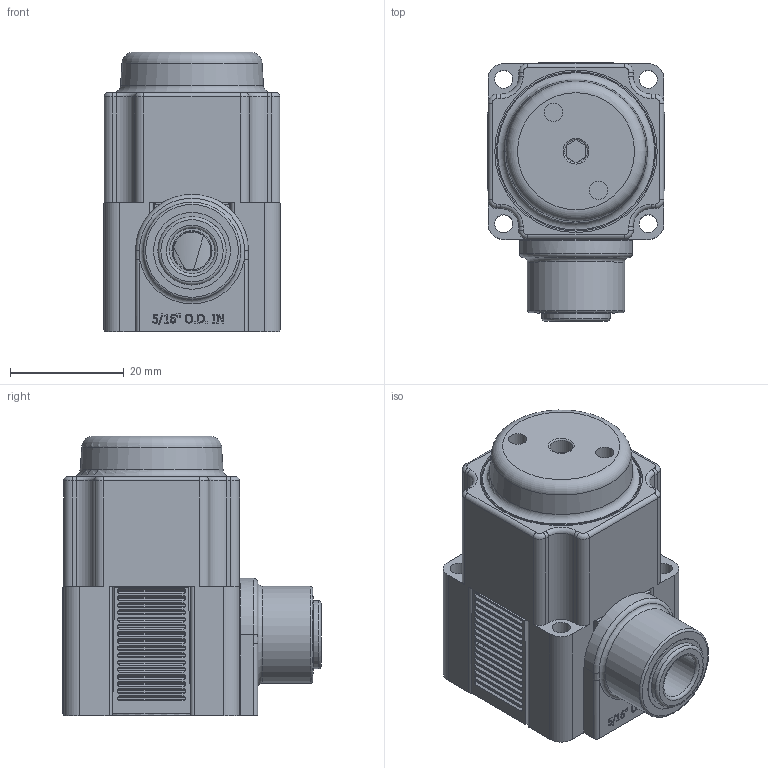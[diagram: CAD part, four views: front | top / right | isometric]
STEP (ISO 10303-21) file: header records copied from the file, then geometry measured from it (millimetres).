
FILE_DESCRIPTION(/* description */ (''),/* implementation_level */ '2;1');
FILE_NAME(/* name */ 'K:\Normteile INVENTOR\Air-Logic\Regulators\PR7000\PR 7___ 3 Push-In Fitting for 5''32 O.D. Tube In.igs.ipt.stp',/* time_stamp */ '2020-05-27T10:53:57+02:00',/* author */ ('Paul'),/* organization */ (''),/* preprocessor_version */ 'ST-DEVELOPER v18',/* originating_system */ 'Autodesk Inventor 2020',/* authorisation */ '');
FILE_SCHEMA (('AUTOMOTIVE_DESIGN { 1 0 10303 214 3 1 1 }'));
Length unit declared in the file: inch
Products named in the file (1): PR 7___ 3 Push-In Fitting for 5'32 O.D. Tube In.igs
Bounding box: 31.19 x 45.41 x 49.15 mm (x, y, z)
Volume: 42185.6 mm3; surface area: 13943.8 mm2
Topology: 1 solids, 1 shells, 728 faces, 1889 edges, 1236 vertices
Faces by surface type: plane 376, cylinder 253, bspline 73, torus 24, cone 2
Full cylindrical faces by diameter (mm): 3.175 x4, 3.226 x2, 4.013 x1, 7.061 x1, 8.001 x1, 9.169 x1, 9.398 x1, 11.972 x1, 12.014 x1, 12.903 x1, 13.513 x1, 17.094 x1, 26.264 x1, 28.047 x1, 28.575 x1
Entity records: 24963 total; most frequent: CARTESIAN_POINT 6188, ORIENTED_EDGE 3778, DIRECTION 3752, EDGE_CURVE 1889, AXIS2_PLACEMENT_3D 1416, VERTEX_POINT 1236, LINE 920, VECTOR 920
